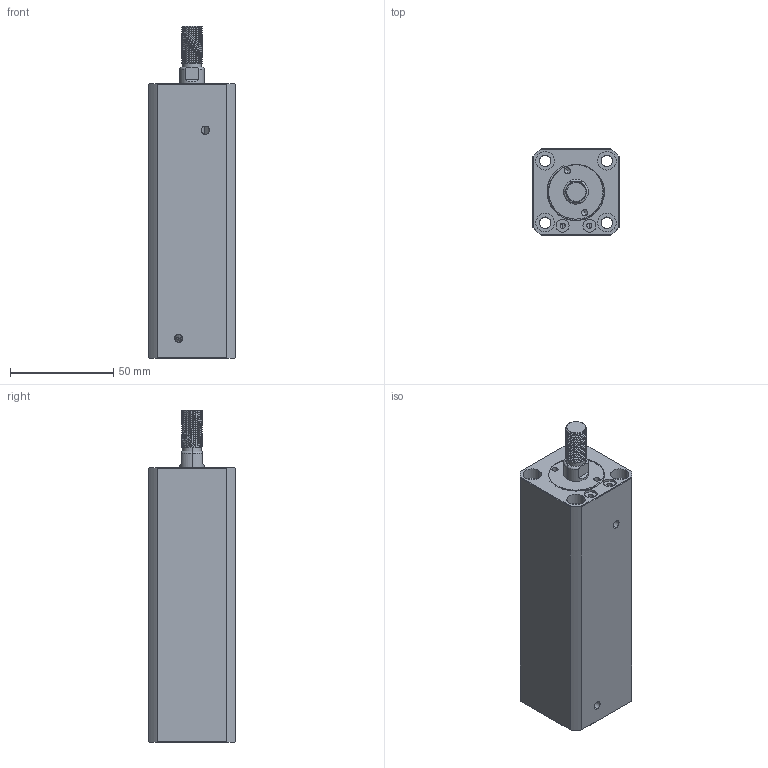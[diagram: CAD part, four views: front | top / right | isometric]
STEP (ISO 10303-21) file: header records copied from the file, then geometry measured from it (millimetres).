
FILE_DESCRIPTION (( 'STEP AP214' ), '1' );
FILE_NAME ('chtb-sdma20x90w_asm.STEP', '2018-05-18T04:44:17', ( 'Windows' ), ( 'Microsoft' ), 'SwSTEP 2.0', 'SolidWorks 2015', '' );
FILE_SCHEMA (( 'AUTOMOTIVE_DESIGN' ));
Length unit declared in the file: millimetre
Products named in the file (4): QG_3; CHTB-SDMA20X90WHSG; CHTB-SDMA20X90NBT; chtb-sdma20x90w_asm
Assembly tree (3 placements, depth 2):
  chtb-sdma20x90w_asm
    CHTB-SDMA20X90NBT
    CHTB-SDMA20X90WHSG
    QG_3
Bounding box: 42 x 42 x 161 mm (x, y, z)
Volume: 197622.1 mm3; surface area: 55527.7 mm2
Topology: 3 solids, 3 shells, 247 faces, 671 edges, 446 vertices
Faces by surface type: cylinder 144, plane 48, torus 25, bspline 23, cone 7
Entity records: 14895 total; most frequent: CARTESIAN_POINT 9018, ORIENTED_EDGE 1334, DIRECTION 1075, EDGE_CURVE 667, VERTEX_POINT 446, AXIS2_PLACEMENT_3D 441, EDGE_LOOP 285, FACE_OUTER_BOUND 247
